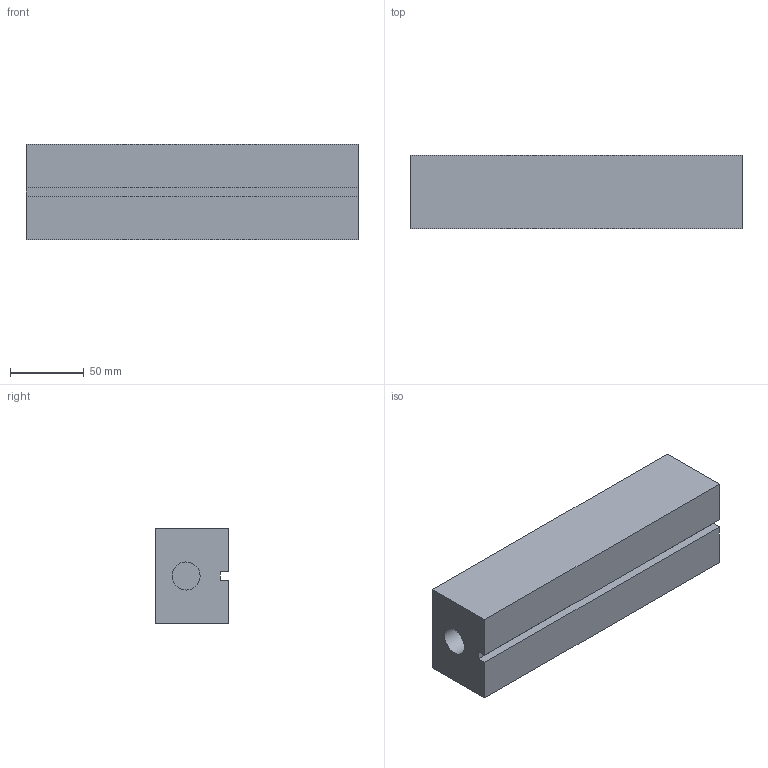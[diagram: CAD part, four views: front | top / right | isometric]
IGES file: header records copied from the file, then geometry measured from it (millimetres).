
Start section: START RECORD GO HERE.
Global section: file name: Blank-65x50x225-29.igs; native system: DASSAULT SYSTEMES CATIA V5 R20 - www.3ds.com; preprocessor: CATIA Version 5 Release 20 ; author: Brett; organization: REA-SERVER; date: 20120612.125836; units: millimetre
Bounding box: 225 x 50 x 65 mm (x, y, z)
Surface area: 63981.9 mm2 (no closed solid volume)
Topology: 0 solids, 0 shells, 13 faces, 64 edges, 64 vertices
Faces by surface type: plane 11, revolution 2
